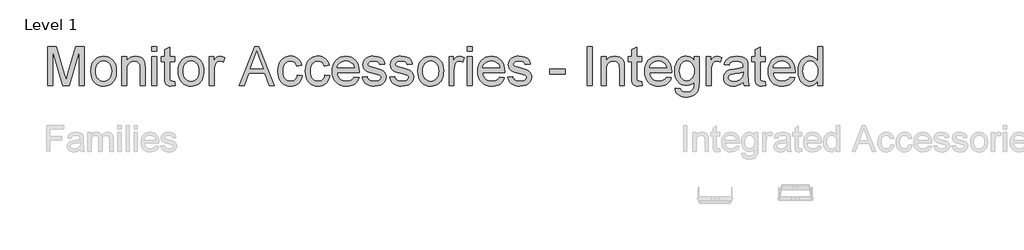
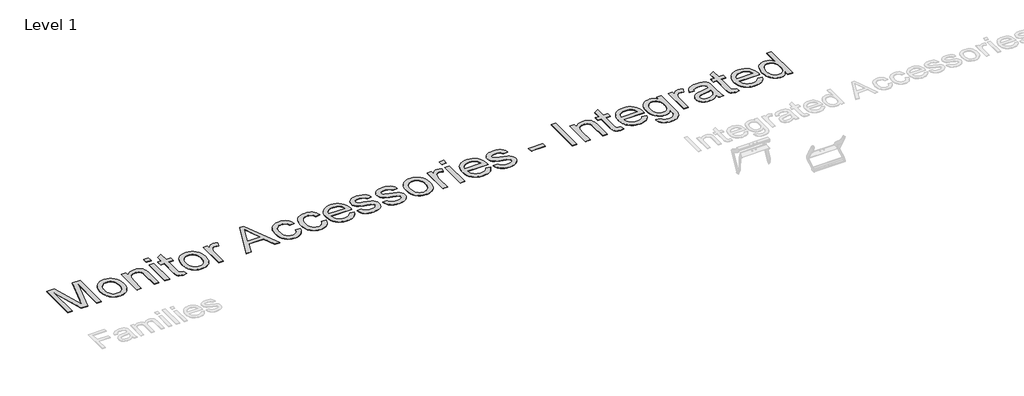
# One storey, part 4 of 7: 1 proxy.
"""IFC4 building model written with IfcOpenShell, lengths in millimetres."""

from ifc_helpers import new_model, si_unit, origin, origin_with_axes, place, context, project, spatial, polyline, outline, extrude, element, save

model = new_model("IFC4")

# Units and contexts
model_context = context("Model", 3, world=origin())
ifc_project = project(units=[si_unit("LENGTHUNIT", "METRE", prefix="MILLI")], contexts=[model_context])

# Site, building, storey
site = spatial("IfcSite", under=ifc_project)
building = spatial("IfcBuilding", under=site)
storey = spatial("IfcBuildingStorey", under=building, Name="Level 1", Elevation=0.0)

# Proxy
placement = place(None, origin())
element("IfcBuildingElementProxy", 1, Name="600mm Arial", ObjectType="600mm Arial", at=placement, inside=storey, context=model_context, shape_type="SweptSolid", body=[
    extrude(outline(polyline([(-21034.9539913, 11851.3054836), (-21034.9539913, 12442.0747143), (-20907.8866836, 12442.0747143), (-20787.021299, 12025.6804836), (-20762.646299, 11938.7093297), (-20736.2520682, 12032.892022), (-20617.4059143, 12442.0747143), (-20490.3386067, 12442.0747143), (-20490.3386067, 11851.3054836), (-20564.1847605, 11851.3054836), (-20564.1847605, 12368.2285605), (-20712.598222, 11851.3054836), (-20812.6943759, 11851.3054836), (-20961.1078374, 12368.2285605), (-20961.1078374, 11851.3054836), (-21034.9539913, 11851.3054836)])), origin_with_axes(), (0.0, 0.0, 1.0), 5.0),
    extrude(outline(polyline([(-20388.8001451, 12068.2285605), (-20384.8067557, 12124.4154595), (-20372.8265874, 12172.8319259), (-20352.8596403, 12213.4779595), (-20324.9059143, 12246.3535605), (-20296.7628855, 12267.3661807), (-20265.6991836, 12282.3751951), (-20231.7148086, 12291.3806038), (-20194.8097605, 12294.3824066), (-20154.0690754, 12290.7270581), (-20117.2316355, 12279.7610124), (-20084.2974408, 12261.4842696), (-20055.2664913, 12235.8968297), (-20031.5720802, 12203.8640773), (-20014.6475009, 12166.251397), (-20004.4927533, 12123.0587889), (-20001.1078374, 12074.2862528), (-20002.6042317, 12034.7580076), (-20007.0934143, 11999.6828874), (-20014.5753855, 11969.0608922), (-20025.0501451, 11942.892022), (-20038.3869841, 11920.2883562), (-20054.4551932, 11900.361974), (-20073.2547725, 11883.1128754), (-20094.785722, 11868.5410605), (-20118.2097004, 11856.9620341), (-20142.6883663, 11848.6913009), (-20168.2217196, 11843.728861), (-20194.8097605, 11842.0747143), (-20236.1453975, 11845.7165413), (-20273.3253855, 11856.642022), (-20306.3497244, 11874.8511566), (-20335.2184143, 11900.3439451), (-20358.6604216, 11932.6876951), (-20375.4047124, 11971.4497143), (-20385.4512869, 12016.6300028), (-20388.8001451, 12068.2285605)]), holes=[polyline([(-20314.9539913, 12068.3727913), (-20312.817573, 12032.5539812), (-20306.4083182, 12001.5398586), (-20295.7262268, 11975.3304235), (-20280.771299, 11953.9256759), (-20262.5801932, 11937.2985725), (-20242.1895682, 11925.4220701), (-20219.599424, 11918.2961687), (-20194.8097605, 11915.9208682), (-20170.146299, 11918.3096903), (-20147.646299, 11925.4761566), (-20127.3097605, 11937.4202672), (-20109.1366836, 11954.142022), (-20094.1817557, 11975.7586086), (-20083.4996643, 12002.3872143), (-20077.0904095, 12034.0278393), (-20074.9539913, 12070.6804836), (-20077.1039312, 12105.3634764), (-20083.5537509, 12135.5663009), (-20094.3034504, 12161.2889571), (-20109.3530297, 12182.5314451), (-20127.5937148, 12199.1585485), (-20147.9167317, 12211.0350509), (-20170.3220802, 12218.1609523), (-20194.8097605, 12220.5362528), (-20219.599424, 12218.1699667), (-20242.1895682, 12211.0711086), (-20262.5801932, 12199.2396783), (-20280.771299, 12182.6756759), (-20295.7262268, 12161.3340292), (-20306.4083182, 12135.1696663), (-20312.817573, 12104.1825869), (-20314.9539913, 12068.3727913)])]), origin_with_axes(), (0.0, 0.0, 1.0), 5.0),
    extrude(outline(polyline([(-19918.0309143, 11851.3054836), (-19918.0309143, 12285.1516374), (-19844.1847605, 12285.1516374), (-19844.1847605, 12224.5747143), (-19818.5297124, 12255.1155797), (-19787.7184143, 12276.9304836), (-19751.7508663, 12290.0194259), (-19710.6270682, 12294.3824066), (-19674.2268278, 12290.8667816), (-19640.8914913, 12280.3199066), (-19613.0910105, 12264.0578874), (-19593.2953374, 12243.3968297), (-19579.863847, 12218.3908201), (-19571.1559143, 12189.0939451), (-19567.2616836, 12117.6997143), (-19567.2616836, 11851.3054836), (-19641.1078374, 11851.3054836), (-19641.1078374, 12107.7477913), (-19643.2352413, 12145.9328874), (-19649.6174528, 12173.0843297), (-19661.3902893, 12192.5374547), (-19679.6895682, 12207.627599), (-19703.145097, 12217.3090893), (-19730.3866836, 12220.5362528), (-19752.810061, 12218.7243538), (-19773.6378855, 12213.2886566), (-19792.8701571, 12204.2291615), (-19810.5068759, 12191.5458682), (-19825.2409504, 12173.7964691), (-19835.7652893, 12149.5386566), (-19842.0798927, 12118.7724307), (-19844.1847605, 12081.4977913), (-19844.1847605, 11851.3054836), (-19918.0309143, 11851.3054836)])), origin_with_axes(), (0.0, 0.0, 1.0), 5.0),
    extrude(outline(polyline([(-19465.723222, 12368.2285605), (-19465.723222, 12442.0747143), (-19391.8770682, 12442.0747143), (-19391.8770682, 12368.2285605), (-19465.723222, 12368.2285605)])), origin_with_axes(), (0.0, 0.0, 1.0), 5.0),
    extrude(outline(polyline([(-19465.723222, 11851.3054836), (-19465.723222, 12285.1516374), (-19391.8770682, 12285.1516374), (-19391.8770682, 11851.3054836), (-19465.723222, 11851.3054836)])), origin_with_axes(), (0.0, 0.0, 1.0), 5.0),
    extrude(outline(polyline([(-19124.1847605, 11912.892022), (-19114.9539913, 11849.142022), (-19170.1943759, 11842.0747143), (-19205.6390874, 11845.1396182), (-19232.0693759, 11854.3343297), (-19250.7472605, 11868.5050028), (-19262.9347605, 11886.4977913), (-19269.6414913, 11917.3992336), (-19271.8770682, 11970.2958682), (-19271.8770682, 12211.3054836), (-19327.2616836, 12211.3054836), (-19327.2616836, 12285.1516374), (-19271.8770682, 12285.1516374), (-19271.8770682, 12390.5843297), (-19198.0309143, 12433.9977913), (-19198.0309143, 12285.1516374), (-19124.1847605, 12285.1516374), (-19124.1847605, 12211.3054836), (-19198.0309143, 12211.3054836), (-19198.0309143, 11972.4593297), (-19194.1366836, 11934.3824066), (-19181.5164913, 11920.8968297), (-19170.8614432, 11917.1648586), (-19156.348222, 11915.9208682), (-19124.1847605, 11912.892022)])), origin_with_axes(), (0.0, 0.0, 1.0), 5.0),
    extrude(outline(polyline([(-19068.8001451, 12068.2285605), (-19064.8067557, 12124.4154595), (-19052.8265874, 12172.8319259), (-19032.8596403, 12213.4779595), (-19004.9059143, 12246.3535605), (-18976.7628855, 12267.3661807), (-18945.6991836, 12282.3751951), (-18911.7148086, 12291.3806038), (-18874.8097605, 12294.3824066), (-18834.0690754, 12290.7270581), (-18797.2316355, 12279.7610124), (-18764.2974408, 12261.4842696), (-18735.2664913, 12235.8968297), (-18711.5720802, 12203.8640773), (-18694.6475009, 12166.251397), (-18684.4927533, 12123.0587889), (-18681.1078374, 12074.2862528), (-18682.6042317, 12034.7580076), (-18687.0934143, 11999.6828874), (-18694.5753855, 11969.0608922), (-18705.0501451, 11942.892022), (-18718.3869841, 11920.2883562), (-18734.4551932, 11900.361974), (-18753.2547725, 11883.1128754), (-18774.785722, 11868.5410605), (-18798.2097004, 11856.9620341), (-18822.6883663, 11848.6913009), (-18848.2217196, 11843.728861), (-18874.8097605, 11842.0747143), (-18916.1453975, 11845.7165413), (-18953.3253855, 11856.642022), (-18986.3497244, 11874.8511566), (-19015.2184143, 11900.3439451), (-19038.6604216, 11932.6876951), (-19055.4047124, 11971.4497143), (-19065.4512869, 12016.6300028), (-19068.8001451, 12068.2285605)]), holes=[polyline([(-18994.9539913, 12068.3727913), (-18992.817573, 12032.5539812), (-18986.4083182, 12001.5398586), (-18975.7262268, 11975.3304235), (-18960.771299, 11953.9256759), (-18942.5801932, 11937.2985725), (-18922.1895682, 11925.4220701), (-18899.599424, 11918.2961687), (-18874.8097605, 11915.9208682), (-18850.146299, 11918.3096903), (-18827.646299, 11925.4761566), (-18807.3097605, 11937.4202672), (-18789.1366836, 11954.142022), (-18774.1817557, 11975.7586086), (-18763.4996643, 12002.3872143), (-18757.0904095, 12034.0278393), (-18754.9539913, 12070.6804836), (-18757.1039312, 12105.3634764), (-18763.5537509, 12135.5663009), (-18774.3034504, 12161.2889571), (-18789.3530297, 12182.5314451), (-18807.5937148, 12199.1585485), (-18827.9167317, 12211.0350509), (-18850.3220802, 12218.1609523), (-18874.8097605, 12220.5362528), (-18899.599424, 12218.1699667), (-18922.1895682, 12211.0711086), (-18942.5801932, 12199.2396783), (-18960.771299, 12182.6756759), (-18975.7262268, 12161.3340292), (-18986.4083182, 12135.1696663), (-18992.817573, 12104.1825869), (-18994.9539913, 12068.3727913)])]), origin_with_axes(), (0.0, 0.0, 1.0), 5.0),
    extrude(outline(polyline([(-18598.0309143, 11851.3054836), (-18598.0309143, 12285.1516374), (-18533.4155297, 12285.1516374), (-18533.4155297, 12220.9689451), (-18509.5453374, 12258.1804836), (-18487.5501451, 12280.1035605), (-18465.4828374, 12290.8126951), (-18441.396299, 12294.3824066), (-18404.6174528, 12288.6852913), (-18367.2616836, 12271.5939451), (-18391.9251451, 12205.392022), (-18417.8866836, 12216.7501951), (-18443.848222, 12220.5362528), (-18465.8975009, 12216.8944259), (-18485.6030297, 12205.9689451), (-18501.5225009, 12188.5891374), (-18512.2136067, 12165.5843297), (-18521.191972, 12124.3343297), (-18524.1847605, 12079.3343297), (-18524.1847605, 11851.3054836), (-18598.0309143, 11851.3054836)])), origin_with_axes(), (0.0, 0.0, 1.0), 5.0),
    extrude(outline(polyline([(-18149.9059143, 11851.3054836), (-17914.0886067, 12442.0747143), (-17851.2039913, 12442.0747143), (-17615.3866836, 11851.3054836), (-17693.4155297, 11851.3054836), (-17761.0597605, 12035.9208682), (-18004.3770682, 12035.9208682), (-18071.8770682, 11851.3054836), (-18149.9059143, 11851.3054836)]), holes=[polyline([(-17977.2616836, 12109.767022), (-17788.0309143, 12109.767022), (-17841.2520682, 12255.0074066), (-17882.646299, 12368.2285605), (-17919.4251451, 12267.6997143), (-17977.2616836, 12109.767022)])]), origin_with_axes(), (0.0, 0.0, 1.0), 5.0),
    extrude(outline(polyline([(-17268.8001451, 12008.2285605), (-17194.9539913, 11998.9977913), (-17202.9858422, 11964.1525389), (-17215.5429336, 11933.3187047), (-17232.6252653, 11906.4962889), (-17254.2328374, 11883.6852913), (-17279.4551932, 11865.4806639), (-17307.3818759, 11852.4773586), (-17338.0128855, 11844.6753754), (-17371.348222, 11842.0747143), (-17412.7649889, 11845.7030196), (-17449.8999047, 11856.5879355), (-17482.7529696, 11874.7294619), (-17511.3241836, 11900.127599), (-17534.450686, 11932.3045821), (-17550.9696163, 11970.782647), (-17560.8809744, 12015.5617937), (-17564.1847605, 12066.642022), (-17558.5417317, 12132.3571663), (-17551.4879456, 12161.9289812), (-17541.6126451, 12189.3102913), (-17528.848222, 12213.9512167), (-17513.1270682, 12235.3018778), (-17494.4491836, 12253.3622744), (-17472.8145682, 12268.1324066), (-17449.2012869, 12279.6167816), (-17424.5874047, 12287.8199066), (-17398.9729216, 12292.7417816), (-17372.3578374, 12294.3824066), (-17339.5949167, 12292.1288009), (-17309.9600009, 12285.3679836), (-17283.4530898, 12274.0999547), (-17260.0741836, 12258.3247143), (-17240.2199167, 12238.4028393), (-17224.286924, 12214.6949066), (-17212.2752052, 12187.2009163), (-17204.1847605, 12155.9208682), (-17278.0309143, 12146.690099), (-17291.426347, 12178.907647), (-17312.285722, 12202.002599), (-17339.4551932, 12215.9028393), (-17371.7809143, 12220.5362528), (-17396.872561, 12218.2556038), (-17419.5032701, 12211.4136566), (-17439.6730417, 12200.0104115), (-17457.3818759, 12184.0458682), (-17471.8004456, 12163.1504355), (-17482.099424, 12136.954522), (-17488.278811, 12105.4581278), (-17490.3386067, 12068.6612528), (-17488.3238831, 12031.3099908), (-17482.2797124, 11999.4485124), (-17472.2060946, 11973.0768177), (-17458.1030297, 11952.1949066), (-17440.7457581, 11936.3250148), (-17420.9095201, 11924.9893778), (-17398.5943158, 11918.1879956), (-17373.8001451, 11915.9208682), (-17335.5609624, 11921.5819259), (-17319.0240033, 11928.658248), (-17304.208799, 11938.565099), (-17291.5300129, 11951.4106518), (-17281.4023086, 11967.3030797), (-17273.825686, 11986.2423826), (-17268.8001451, 12008.2285605)])), origin_with_axes(), (0.0, 0.0, 1.0), 5.0),
    extrude(outline(polyline([(-16853.4155297, 12008.2285605), (-16779.5693759, 11998.9977913), (-16787.6012268, 11964.1525389), (-16800.1583182, 11933.3187047), (-16817.2406499, 11906.4962889), (-16838.848222, 11883.6852913), (-16864.0705778, 11865.4806639), (-16891.9972605, 11852.4773586), (-16922.6282701, 11844.6753754), (-16955.9636067, 11842.0747143), (-16997.3803735, 11845.7030196), (-17034.5152893, 11856.5879355), (-17067.3683542, 11874.7294619), (-17095.9395682, 11900.127599), (-17119.0660706, 11932.3045821), (-17135.5850009, 11970.782647), (-17145.4963591, 12015.5617937), (-17148.8001451, 12066.642022), (-17143.1571163, 12132.3571663), (-17136.1033302, 12161.9289812), (-17126.2280297, 12189.3102913), (-17113.4636067, 12213.9512167), (-17097.7424528, 12235.3018778), (-17079.0645682, 12253.3622744), (-17057.4299528, 12268.1324066), (-17033.8166716, 12279.6167816), (-17009.2027893, 12287.8199066), (-16983.5883062, 12292.7417816), (-16956.973222, 12294.3824066), (-16924.2103014, 12292.1288009), (-16894.5753855, 12285.3679836), (-16868.0684744, 12274.0999547), (-16844.6895682, 12258.3247143), (-16824.8353014, 12238.4028393), (-16808.9023086, 12214.6949066), (-16796.8905898, 12187.2009163), (-16788.8001451, 12155.9208682), (-16862.646299, 12146.690099), (-16876.0417317, 12178.907647), (-16896.9011067, 12202.002599), (-16924.0705778, 12215.9028393), (-16956.396299, 12220.5362528), (-16981.4879456, 12218.2556038), (-17004.1186547, 12211.4136566), (-17024.2884264, 12200.0104115), (-17041.9972605, 12184.0458682), (-17056.4158302, 12163.1504355), (-17066.7148086, 12136.954522), (-17072.8941956, 12105.4581278), (-17074.9539913, 12068.6612528), (-17072.9392677, 12031.3099908), (-17066.895097, 11999.4485124), (-17056.8214792, 11973.0768177), (-17042.7184143, 11952.1949066), (-17025.3611427, 11936.3250148), (-17005.5249047, 11924.9893778), (-16983.2097004, 11918.1879956), (-16958.4155297, 11915.9208682), (-16920.176347, 11921.5819259), (-16903.6393879, 11928.658248), (-16888.8241836, 11938.565099), (-16876.1453975, 11951.4106518), (-16866.0176932, 11967.3030797), (-16858.4410706, 11986.2423826), (-16853.4155297, 12008.2285605)])), origin_with_axes(), (0.0, 0.0, 1.0), 5.0),
    extrude(outline(polyline([(-16411.2039913, 11980.5362528), (-16338.8001451, 11971.3054836), (-16349.9014071, 11942.3060845), (-16364.8878855, 11916.7501951), (-16383.7595802, 11894.6378153), (-16406.5164913, 11875.9689451), (-16432.9242437, 11861.1402191), (-16462.7484624, 11850.548272), (-16495.9891475, 11844.1931038), (-16532.646299, 11842.0747143), (-16578.4666115, 11845.7300629), (-16619.2929336, 11856.6961086), (-16655.1252653, 11874.9728514), (-16685.9636067, 11900.5602913), (-16710.7622845, 11932.7462889), (-16728.4756259, 11970.8187047), (-16739.1036307, 12014.7775389), (-16742.646299, 12064.6227913), (-16739.067573, 12116.158248), (-16728.3313951, 12161.5819259), (-16710.4377653, 12200.8938249), (-16685.3866836, 12234.0939451), (-16654.629472, 12260.470147), (-16619.6174528, 12279.3102913), (-16580.3506259, 12290.6143778), (-16536.8289913, 12294.3824066), (-16494.7090994, 12290.6233922), (-16456.6186547, 12279.346349), (-16422.5576571, 12260.5512768), (-16392.5261067, 12234.2381759), (-16368.0113831, 12201.1101711), (-16350.5008663, 12161.8703874), (-16339.9945562, 12116.5188249), (-16336.4924528, 12065.0554836), (-16336.9251451, 12045.1516374), (-16668.8001451, 12045.1516374), (-16664.5228014, 12015.6834884), (-16656.0176932, 11989.8751951), (-16643.2848206, 11967.7267576), (-16626.3241836, 11949.2381759), (-16606.0732821, 11934.6618538), (-16583.4696163, 11924.2501951), (-16558.513186, 11918.0031999), (-16531.2039913, 11915.9208682), (-16491.9011067, 11919.7790413), (-16458.8001451, 11931.3535605), (-16431.9011067, 11951.3655797), (-16411.2039913, 11980.5362528)]), holes=[polyline([(-16668.8001451, 12118.9977913), (-16410.3386067, 12118.9977913), (-16420.3265874, 12158.0122143), (-16428.9173326, 12173.3547624), (-16439.9059143, 12185.9208682), (-16460.0441355, 12201.065099), (-16482.958799, 12211.8824066), (-16508.6499047, 12218.3727913), (-16537.1174528, 12220.5362528), (-16563.0834985, 12218.8099908), (-16586.895097, 12213.6312047), (-16608.5522485, 12204.9998946), (-16628.0549528, 12192.9160605), (-16644.4206379, 12177.9385966), (-16656.6667317, 12160.626397), (-16664.7932341, 12140.9794619), (-16668.8001451, 12118.9977913)])]), origin_with_axes(), (0.0, 0.0, 1.0), 5.0),
    extrude(outline(polyline([(-16290.3386067, 11980.5362528), (-16216.4924528, 11989.767022), (-16212.0303134, 11972.9280797), (-16204.8458182, 11958.1804836), (-16194.9389672, 11945.5242336), (-16182.3097605, 11934.9593297), (-16166.9221403, 11926.6300028), (-16148.740049, 11920.6804836), (-16103.9924528, 11915.9208682), (-16059.785722, 11920.283849), (-16042.6042317, 11925.7375749), (-16028.7039913, 11933.3727913), (-16010.3145682, 11952.3391374), (-16004.1847605, 11974.3343297), (-16005.7262268, 11984.3042816), (-16010.3506259, 11993.1564451), (-16028.848222, 12007.5074066), (-16056.504472, 12016.8824066), (-16104.8578374, 12028.565099), (-16172.2496643, 12048.0542816), (-16216.0597605, 12064.6949066), (-16244.2027893, 12082.8499547), (-16264.5934143, 12106.8824066), (-16276.9792317, 12135.2598105), (-16281.1078374, 12166.4497143), (-16277.7905297, 12195.0614932), (-16267.8386067, 12221.4737528), (-16252.1535105, 12244.6408201), (-16231.6366836, 12263.517022), (-16211.2460586, 12275.3980316), (-16184.6895682, 12285.3679836), (-16153.9864432, 12292.1288009), (-16121.1559143, 12294.3824066), (-16073.0910105, 12290.7586086), (-16031.3001451, 12279.8872143), (-15997.6943759, 12262.8319259), (-15974.1847605, 12240.6564451), (-15958.6078374, 12211.720147), (-15948.8001451, 12174.3824066), (-16022.646299, 12165.1516374), (-16031.9672124, 12188.3908201), (-16050.410722, 12205.8968297), (-16078.1571163, 12216.876397), (-16115.3866836, 12220.5362528), (-16157.7905297, 12217.0386566), (-16186.0597605, 12206.5458682), (-16201.9612028, 12191.4016374), (-16207.2616836, 12173.9497143), (-16205.0621643, 12162.5915413), (-16198.4636067, 12152.4593297), (-16187.177549, 12143.408849), (-16170.9155297, 12136.1612528), (-16107.3097605, 12120.440099), (-15998.9203374, 12085.6804836), (-15970.2905297, 12069.0578874), (-15948.583799, 12046.3054836), (-15934.8999047, 12017.3511566), (-15930.3386067, 11982.1227913), (-15935.693174, 11945.704522), (-15951.7568759, 11911.4497143), (-15977.9167317, 11882.0446663), (-16013.5597605, 11860.1756759), (-16056.6126451, 11846.5999547), (-16105.0020682, 11842.0747143), (-16144.7466595, 11844.2562047), (-16179.4612028, 11850.8006759), (-16209.145698, 11861.7081278), (-16233.8001451, 11876.9785605), (-16253.9383663, 11896.5398586), (-16270.0741836, 11920.3199066), (-16282.207597, 11948.3187047), (-16290.3386067, 11980.5362528)])), origin_with_axes(), (0.0, 0.0, 1.0), 5.0),
    extrude(outline(polyline([(-15874.9539913, 11980.5362528), (-15801.1078374, 11989.767022), (-15796.645698, 11972.9280797), (-15789.4612028, 11958.1804836), (-15779.5543518, 11945.5242336), (-15766.9251451, 11934.9593297), (-15751.5375249, 11926.6300028), (-15733.3554336, 11920.6804836), (-15688.6078374, 11915.9208682), (-15644.4011067, 11920.283849), (-15627.2196163, 11925.7375749), (-15613.3193759, 11933.3727913), (-15594.9299528, 11952.3391374), (-15588.8001451, 11974.3343297), (-15590.3416115, 11984.3042816), (-15594.9660105, 11993.1564451), (-15613.4636067, 12007.5074066), (-15641.1198567, 12016.8824066), (-15689.473222, 12028.565099), (-15756.865049, 12048.0542816), (-15800.6751451, 12064.6949066), (-15828.818174, 12082.8499547), (-15849.208799, 12106.8824066), (-15861.5946163, 12135.2598105), (-15865.723222, 12166.4497143), (-15862.4059143, 12195.0614932), (-15852.4539913, 12221.4737528), (-15836.7688951, 12244.6408201), (-15816.2520682, 12263.517022), (-15795.8614432, 12275.3980316), (-15769.3049528, 12285.3679836), (-15738.6018278, 12292.1288009), (-15705.771299, 12294.3824066), (-15657.7063951, 12290.7586086), (-15615.9155297, 12279.8872143), (-15582.3097605, 12262.8319259), (-15558.8001451, 12240.6564451), (-15543.223222, 12211.720147), (-15533.4155297, 12174.3824066), (-15607.2616836, 12165.1516374), (-15616.582597, 12188.3908201), (-15635.0261067, 12205.8968297), (-15662.7725009, 12216.876397), (-15700.0020682, 12220.5362528), (-15742.4059143, 12217.0386566), (-15770.6751451, 12206.5458682), (-15786.5765874, 12191.4016374), (-15791.8770682, 12173.9497143), (-15789.677549, 12162.5915413), (-15783.0789913, 12152.4593297), (-15771.7929336, 12143.408849), (-15755.5309143, 12136.1612528), (-15691.9251451, 12120.440099), (-15583.535722, 12085.6804836), (-15554.9059143, 12069.0578874), (-15533.1991836, 12046.3054836), (-15519.5152893, 12017.3511566), (-15514.9539913, 11982.1227913), (-15520.3085586, 11945.704522), (-15536.3722605, 11911.4497143), (-15562.5321163, 11882.0446663), (-15598.1751451, 11860.1756759), (-15641.2280297, 11846.5999547), (-15689.6174528, 11842.0747143), (-15729.3620442, 11844.2562047), (-15764.0765874, 11850.8006759), (-15793.7610826, 11861.7081278), (-15818.4155297, 11876.9785605), (-15838.5537509, 11896.5398586), (-15854.6895682, 11920.3199066), (-15866.8229817, 11948.3187047), (-15874.9539913, 11980.5362528)])), origin_with_axes(), (0.0, 0.0, 1.0), 5.0),
    extrude(outline(polyline([(-15450.3386067, 12068.2285605), (-15446.3452172, 12124.4154595), (-15434.365049, 12172.8319259), (-15414.3981018, 12213.4779595), (-15386.4443759, 12246.3535605), (-15358.301347, 12267.3661807), (-15327.2376451, 12282.3751951), (-15293.2532701, 12291.3806038), (-15256.348222, 12294.3824066), (-15215.6075369, 12290.7270581), (-15178.770097, 12279.7610124), (-15145.8359023, 12261.4842696), (-15116.8049528, 12235.8968297), (-15093.1105417, 12203.8640773), (-15076.1859624, 12166.251397), (-15066.0312148, 12123.0587889), (-15062.646299, 12074.2862528), (-15064.1426932, 12034.7580076), (-15068.6318759, 11999.6828874), (-15076.113847, 11969.0608922), (-15086.5886067, 11942.892022), (-15099.9254456, 11920.2883562), (-15115.9936547, 11900.361974), (-15134.7932341, 11883.1128754), (-15156.3241836, 11868.5410605), (-15179.7481619, 11856.9620341), (-15204.2268278, 11848.6913009), (-15229.7601812, 11843.728861), (-15256.348222, 11842.0747143), (-15297.6838591, 11845.7165413), (-15334.863847, 11856.642022), (-15367.888186, 11874.8511566), (-15396.7568759, 11900.3439451), (-15420.1988831, 11932.6876951), (-15436.943174, 11971.4497143), (-15446.9897485, 12016.6300028), (-15450.3386067, 12068.2285605)]), holes=[polyline([(-15376.4924528, 12068.3727913), (-15374.3560345, 12032.5539812), (-15367.9467797, 12001.5398586), (-15357.2646884, 11975.3304235), (-15342.3097605, 11953.9256759), (-15324.1186547, 11937.2985725), (-15303.7280297, 11925.4220701), (-15281.1378855, 11918.2961687), (-15256.348222, 11915.9208682), (-15231.6847605, 11918.3096903), (-15209.1847605, 11925.4761566), (-15188.848222, 11937.4202672), (-15170.6751451, 11954.142022), (-15155.7202172, 11975.7586086), (-15145.0381259, 12002.3872143), (-15138.6288711, 12034.0278393), (-15136.4924528, 12070.6804836), (-15138.6423927, 12105.3634764), (-15145.0922124, 12135.5663009), (-15155.8419119, 12161.2889571), (-15170.8914913, 12182.5314451), (-15189.1321764, 12199.1585485), (-15209.4551932, 12211.0350509), (-15231.8605417, 12218.1609523), (-15256.348222, 12220.5362528), (-15281.1378855, 12218.1699667), (-15303.7280297, 12211.0711086), (-15324.1186547, 12199.2396783), (-15342.3097605, 12182.6756759), (-15357.2646884, 12161.3340292), (-15367.9467797, 12135.1696663), (-15374.3560345, 12104.1825869), (-15376.4924528, 12068.3727913)])]), origin_with_axes(), (0.0, 0.0, 1.0), 5.0),
    extrude(outline(polyline([(-14979.5693759, 11851.3054836), (-14979.5693759, 12285.1516374), (-14914.9539913, 12285.1516374), (-14914.9539913, 12220.9689451), (-14891.083799, 12258.1804836), (-14869.0886067, 12280.1035605), (-14847.021299, 12290.8126951), (-14822.9347605, 12294.3824066), (-14786.1559143, 12288.6852913), (-14748.8001451, 12271.5939451), (-14773.4636067, 12205.392022), (-14799.4251451, 12216.7501951), (-14825.3866836, 12220.5362528), (-14847.4359624, 12216.8944259), (-14867.1414913, 12205.9689451), (-14883.0609624, 12188.5891374), (-14893.7520682, 12165.5843297), (-14902.7304336, 12124.3343297), (-14905.723222, 12079.3343297), (-14905.723222, 11851.3054836), (-14979.5693759, 11851.3054836)])), origin_with_axes(), (0.0, 0.0, 1.0), 5.0),
    extrude(outline(polyline([(-14702.646299, 11851.3054836), (-14702.646299, 12285.1516374), (-14628.8001451, 12285.1516374), (-14628.8001451, 11851.3054836), (-14702.646299, 11851.3054836)])), origin_with_axes(), (0.0, 0.0, 1.0), 5.0),
    extrude(outline(polyline([(-14702.646299, 12368.2285605), (-14702.646299, 12442.0747143), (-14628.8001451, 12442.0747143), (-14628.8001451, 12368.2285605), (-14702.646299, 12368.2285605)])), origin_with_axes(), (0.0, 0.0, 1.0), 5.0),
    extrude(outline(polyline([(-14214.2809143, 11980.5362528), (-14141.8770682, 11971.3054836), (-14152.9783302, 11942.3060845), (-14167.9648086, 11916.7501951), (-14186.8365033, 11894.6378153), (-14209.5934143, 11875.9689451), (-14236.0011667, 11861.1402191), (-14265.8253855, 11850.548272), (-14299.0660706, 11844.1931038), (-14335.723222, 11842.0747143), (-14381.5435345, 11845.7300629), (-14422.3698567, 11856.6961086), (-14458.2021884, 11874.9728514), (-14489.0405297, 11900.5602913), (-14513.8392076, 11932.7462889), (-14531.552549, 11970.8187047), (-14542.1805538, 12014.7775389), (-14545.723222, 12064.6227913), (-14542.1444961, 12116.158248), (-14531.4083182, 12161.5819259), (-14513.5146884, 12200.8938249), (-14488.4636067, 12234.0939451), (-14457.7063951, 12260.470147), (-14422.6943759, 12279.3102913), (-14383.427549, 12290.6143778), (-14339.9059143, 12294.3824066), (-14297.7860225, 12290.6233922), (-14259.6955778, 12279.346349), (-14225.6345802, 12260.5512768), (-14195.6030297, 12234.2381759), (-14171.0883062, 12201.1101711), (-14153.5777893, 12161.8703874), (-14143.0714792, 12116.5188249), (-14139.5693759, 12065.0554836), (-14140.0020682, 12045.1516374), (-14471.8770682, 12045.1516374), (-14467.5997244, 12015.6834884), (-14459.0946163, 11989.8751951), (-14446.3617437, 11967.7267576), (-14429.4011067, 11949.2381759), (-14409.1502052, 11934.6618538), (-14386.5465393, 11924.2501951), (-14361.5901091, 11918.0031999), (-14334.2809143, 11915.9208682), (-14294.9780297, 11919.7790413), (-14261.8770682, 11931.3535605), (-14234.9780297, 11951.3655797), (-14214.2809143, 11980.5362528)]), holes=[polyline([(-14471.8770682, 12118.9977913), (-14213.4155297, 12118.9977913), (-14223.4035105, 12158.0122143), (-14231.9942557, 12173.3547624), (-14242.9828374, 12185.9208682), (-14263.1210586, 12201.065099), (-14286.035722, 12211.8824066), (-14311.7268278, 12218.3727913), (-14340.1943759, 12220.5362528), (-14366.1604216, 12218.8099908), (-14389.9720201, 12213.6312047), (-14411.6291716, 12204.9998946), (-14431.1318759, 12192.9160605), (-14447.497561, 12177.9385966), (-14459.7436547, 12160.626397), (-14467.8701571, 12140.9794619), (-14471.8770682, 12118.9977913)])]), origin_with_axes(), (0.0, 0.0, 1.0), 5.0),
    extrude(outline(polyline([(-14093.4155297, 11980.5362528), (-14019.5693759, 11989.767022), (-14015.1072365, 11972.9280797), (-14007.9227413, 11958.1804836), (-13998.0158903, 11945.5242336), (-13985.3866836, 11934.9593297), (-13969.9990634, 11926.6300028), (-13951.816972, 11920.6804836), (-13907.0693759, 11915.9208682), (-13862.8626451, 11920.283849), (-13845.6811547, 11925.7375749), (-13831.7809143, 11933.3727913), (-13813.3914913, 11952.3391374), (-13807.2616836, 11974.3343297), (-13808.8031499, 11984.3042816), (-13813.427549, 11993.1564451), (-13831.9251451, 12007.5074066), (-13859.5813951, 12016.8824066), (-13907.9347605, 12028.565099), (-13975.3265874, 12048.0542816), (-14019.1366836, 12064.6949066), (-14047.2797124, 12082.8499547), (-14067.6703374, 12106.8824066), (-14080.0561547, 12135.2598105), (-14084.1847605, 12166.4497143), (-14080.8674528, 12195.0614932), (-14070.9155297, 12221.4737528), (-14055.2304336, 12244.6408201), (-14034.7136067, 12263.517022), (-14014.3229817, 12275.3980316), (-13987.7664913, 12285.3679836), (-13957.0633663, 12292.1288009), (-13924.2328374, 12294.3824066), (-13876.1679336, 12290.7586086), (-13834.3770682, 12279.8872143), (-13800.771299, 12262.8319259), (-13777.2616836, 12240.6564451), (-13761.6847605, 12211.720147), (-13751.8770682, 12174.3824066), (-13825.723222, 12165.1516374), (-13835.0441355, 12188.3908201), (-13853.4876451, 12205.8968297), (-13881.2340393, 12216.876397), (-13918.4636067, 12220.5362528), (-13960.8674528, 12217.0386566), (-13989.1366836, 12206.5458682), (-14005.0381259, 12191.4016374), (-14010.3386067, 12173.9497143), (-14008.1390874, 12162.5915413), (-14001.5405297, 12152.4593297), (-13990.254472, 12143.408849), (-13973.9924528, 12136.1612528), (-13910.3866836, 12120.440099), (-13801.9972605, 12085.6804836), (-13773.3674528, 12069.0578874), (-13751.660722, 12046.3054836), (-13737.9768278, 12017.3511566), (-13733.4155297, 11982.1227913), (-13738.770097, 11945.704522), (-13754.833799, 11911.4497143), (-13780.9936547, 11882.0446663), (-13816.6366836, 11860.1756759), (-13859.6895682, 11846.5999547), (-13908.0789913, 11842.0747143), (-13947.8235826, 11844.2562047), (-13982.5381259, 11850.8006759), (-14012.2226211, 11861.7081278), (-14036.8770682, 11876.9785605), (-14057.0152893, 11896.5398586), (-14073.1511067, 11920.3199066), (-14085.2845201, 11948.3187047), (-14093.4155297, 11980.5362528)])), origin_with_axes(), (0.0, 0.0, 1.0), 5.0),
    extrude(outline(polyline([(-13456.4924528, 12026.690099), (-13456.4924528, 12100.5362528), (-13225.723222, 12100.5362528), (-13225.723222, 12026.690099), (-13456.4924528, 12026.690099)])), origin_with_axes(), (0.0, 0.0, 1.0), 5.0),
    extrude(outline(polyline([(-12893.4155297, 11851.3054836), (-12893.4155297, 12442.0747143), (-12819.5693759, 12442.0747143), (-12819.5693759, 11851.3054836), (-12893.4155297, 11851.3054836)])), origin_with_axes(), (0.0, 0.0, 1.0), 5.0),
    extrude(outline(polyline([(-12681.1078374, 11851.3054836), (-12681.1078374, 12285.1516374), (-12607.2616836, 12285.1516374), (-12607.2616836, 12224.5747143), (-12581.6066355, 12255.1155797), (-12550.7953374, 12276.9304836), (-12514.8277893, 12290.0194259), (-12473.7039913, 12294.3824066), (-12437.3037509, 12290.8667816), (-12403.9684143, 12280.3199066), (-12376.1679336, 12264.0578874), (-12356.3722605, 12243.3968297), (-12342.9407701, 12218.3908201), (-12334.2328374, 12189.0939451), (-12330.3386067, 12117.6997143), (-12330.3386067, 11851.3054836), (-12404.1847605, 11851.3054836), (-12404.1847605, 12107.7477913), (-12406.3121643, 12145.9328874), (-12412.6943759, 12173.0843297), (-12424.4672124, 12192.5374547), (-12442.7664913, 12207.627599), (-12466.2220201, 12217.3090893), (-12493.4636067, 12220.5362528), (-12515.8869841, 12218.7243538), (-12536.7148086, 12213.2886566), (-12555.9470802, 12204.2291615), (-12573.583799, 12191.5458682), (-12588.3178735, 12173.7964691), (-12598.8422124, 12149.5386566), (-12605.1568158, 12118.7724307), (-12607.2616836, 12081.4977913), (-12607.2616836, 11851.3054836), (-12681.1078374, 11851.3054836)])), origin_with_axes(), (0.0, 0.0, 1.0), 5.0),
    extrude(outline(polyline([(-12071.8770682, 11912.892022), (-12062.646299, 11849.142022), (-12117.8866836, 11842.0747143), (-12153.3313951, 11845.1396182), (-12179.7616836, 11854.3343297), (-12198.4395682, 11868.5050028), (-12210.6270682, 11886.4977913), (-12217.333799, 11917.3992336), (-12219.5693759, 11970.2958682), (-12219.5693759, 12211.3054836), (-12274.9539913, 12211.3054836), (-12274.9539913, 12285.1516374), (-12219.5693759, 12285.1516374), (-12219.5693759, 12390.5843297), (-12145.723222, 12433.9977913), (-12145.723222, 12285.1516374), (-12071.8770682, 12285.1516374), (-12071.8770682, 12211.3054836), (-12145.723222, 12211.3054836), (-12145.723222, 11972.4593297), (-12141.8289913, 11934.3824066), (-12129.208799, 11920.8968297), (-12118.5537509, 11917.1648586), (-12104.0405297, 11915.9208682), (-12071.8770682, 11912.892022)])), origin_with_axes(), (0.0, 0.0, 1.0), 5.0),
    extrude(outline(polyline([(-11694.2809143, 11980.5362528), (-11621.8770682, 11971.3054836), (-11632.9783302, 11942.3060845), (-11647.9648086, 11916.7501951), (-11666.8365033, 11894.6378153), (-11689.5934143, 11875.9689451), (-11716.0011667, 11861.1402191), (-11745.8253855, 11850.548272), (-11779.0660706, 11844.1931038), (-11815.723222, 11842.0747143), (-11861.5435345, 11845.7300629), (-11902.3698567, 11856.6961086), (-11938.2021884, 11874.9728514), (-11969.0405297, 11900.5602913), (-11993.8392076, 11932.7462889), (-12011.552549, 11970.8187047), (-12022.1805538, 12014.7775389), (-12025.723222, 12064.6227913), (-12022.1444961, 12116.158248), (-12011.4083182, 12161.5819259), (-11993.5146884, 12200.8938249), (-11968.4636067, 12234.0939451), (-11937.7063951, 12260.470147), (-11902.6943759, 12279.3102913), (-11863.427549, 12290.6143778), (-11819.9059143, 12294.3824066), (-11777.7860225, 12290.6233922), (-11739.6955778, 12279.346349), (-11705.6345802, 12260.5512768), (-11675.6030297, 12234.2381759), (-11651.0883062, 12201.1101711), (-11633.5777893, 12161.8703874), (-11623.0714792, 12116.5188249), (-11619.5693759, 12065.0554836), (-11620.0020682, 12045.1516374), (-11951.8770682, 12045.1516374), (-11947.5997244, 12015.6834884), (-11939.0946163, 11989.8751951), (-11926.3617437, 11967.7267576), (-11909.4011067, 11949.2381759), (-11889.1502052, 11934.6618538), (-11866.5465393, 11924.2501951), (-11841.5901091, 11918.0031999), (-11814.2809143, 11915.9208682), (-11774.9780297, 11919.7790413), (-11741.8770682, 11931.3535605), (-11714.9780297, 11951.3655797), (-11694.2809143, 11980.5362528)]), holes=[polyline([(-11951.8770682, 12118.9977913), (-11693.4155297, 12118.9977913), (-11703.4035105, 12158.0122143), (-11711.9942557, 12173.3547624), (-11722.9828374, 12185.9208682), (-11743.1210586, 12201.065099), (-11766.035722, 12211.8824066), (-11791.7268278, 12218.3727913), (-11820.1943759, 12220.5362528), (-11846.1604216, 12218.8099908), (-11869.9720201, 12213.6312047), (-11891.6291716, 12204.9998946), (-11911.1318759, 12192.9160605), (-11927.497561, 12177.9385966), (-11939.7436547, 12160.626397), (-11947.8701571, 12140.9794619), (-11951.8770682, 12118.9977913)])]), origin_with_axes(), (0.0, 0.0, 1.0), 5.0),
    extrude(outline(polyline([(-11564.1847605, 11814.3824066), (-11490.3386067, 11805.1516374), (-11482.1895682, 11782.0747143), (-11466.396299, 11766.2093297), (-11435.3506259, 11753.877599), (-11394.7136067, 11749.767022), (-11351.3722605, 11754.4184643), (-11333.8662509, 11760.2327672), (-11319.1366836, 11768.3727913), (-11296.7809143, 11790.7285605), (-11283.0789913, 11820.5843297), (-11279.0765874, 11852.3511566), (-11278.0309143, 11906.690099), (-11302.6042317, 11882.4593297), (-11330.0261067, 11865.1516374), (-11360.2965393, 11854.767022), (-11393.4155297, 11851.3054836), (-11433.903811, 11855.3349307), (-11469.551347, 11867.423272), (-11500.3581379, 11887.5705076), (-11526.3241836, 11915.7766374), (-11546.9266475, 11949.6167816), (-11561.6426932, 11986.6660605), (-11570.4723206, 12026.924474), (-11573.4155297, 12070.392022), (-11568.1330778, 12130.0134163), (-11552.285722, 12184.8391374), (-11540.5399288, 12209.5611927), (-11526.4323567, 12231.299474), (-11509.9630057, 12250.0539812), (-11491.1318759, 12265.8247143), (-11470.2409504, 12278.3187047), (-11447.5922124, 12287.2429836), (-11423.1856619, 12292.5975509), (-11397.021299, 12294.3824066), (-11362.4870442, 12290.3439451), (-11331.1438951, 12278.2285605), (-11302.9918518, 12258.0362528), (-11278.0309143, 12229.767022), (-11278.0309143, 12285.1516374), (-11204.1847605, 12285.1516374), (-11204.1847605, 11910.5843297), (-11209.2328374, 11824.0999547), (-11215.5429336, 11791.931986), (-11224.3770682, 11767.1468297), (-11235.9470802, 11747.1573466), (-11250.4648086, 11729.376397), (-11267.9302533, 11713.8039812), (-11288.3434143, 11700.440099), (-11311.49696, 11689.7129355), (-11337.1835586, 11682.0506759), (-11365.40321, 11677.4533201), (-11396.1559143, 11675.9208682), (-11432.3353014, 11678.0798225), (-11464.863847, 11684.5566855), (-11493.7415514, 11695.3514571), (-11518.9684143, 11710.4641374), (-11539.3455177, 11729.9127552), (-11553.6739432, 11753.7153393), (-11561.9536908, 11781.8718898), (-11564.1847605, 11814.3824066)]), holes=[polyline([(-11499.5693759, 12075.440099), (-11497.5997244, 12038.9271783), (-11491.6907701, 12007.705724), (-11481.8425129, 11981.775736), (-11468.0549528, 11961.1372143), (-11451.2926331, 11945.3935244), (-11432.520097, 11934.1480316), (-11411.7373446, 11927.400736), (-11388.9443759, 11925.1516374), (-11366.3767677, 11927.3872143), (-11345.693174, 11934.0939451), (-11326.8935946, 11945.2718297), (-11309.9780297, 11960.9208682), (-11296.0011667, 11981.3565653), (-11286.0176932, 12006.8944259), (-11280.0276091, 12037.5344499), (-11278.0309143, 12073.2766374), (-11280.0862028, 12107.5269379), (-11286.2520682, 12137.2970701), (-11296.5285105, 12162.5870341), (-11310.9155297, 12183.3968297), (-11328.1961788, 12199.6453273), (-11347.1535105, 12211.251397), (-11367.7875249, 12218.2150389), (-11390.098222, 12220.5362528), (-11412.0348206, 12218.2510966), (-11432.2676932, 12211.3956278), (-11450.7968398, 12199.9698466), (-11467.6222605, 12183.9737528), (-11481.5991235, 12163.4794619), (-11491.582597, 12138.5590893), (-11497.5726812, 12109.212635), (-11499.5693759, 12075.440099)])]), origin_with_axes(), (0.0, 0.0, 1.0), 5.0),
    extrude(outline(polyline([(-11093.4155297, 11851.3054836), (-11093.4155297, 12285.1516374), (-11028.8001451, 12285.1516374), (-11028.8001451, 12220.9689451), (-11004.9299528, 12258.1804836), (-10982.9347605, 12280.1035605), (-10960.8674528, 12290.8126951), (-10936.7809143, 12294.3824066), (-10900.0020682, 12288.6852913), (-10862.646299, 12271.5939451), (-10887.3097605, 12205.392022), (-10913.271299, 12216.7501951), (-10939.2328374, 12220.5362528), (-10961.2821163, 12216.8944259), (-10980.9876451, 12205.9689451), (-10996.9071163, 12188.5891374), (-11007.598222, 12165.5843297), (-11016.5765874, 12124.3343297), (-11019.5693759, 12079.3343297), (-11019.5693759, 11851.3054836), (-11093.4155297, 11851.3054836)])), origin_with_axes(), (0.0, 0.0, 1.0), 5.0),
    extrude(outline(polyline([(-10539.5693759, 11906.690099), (-10574.8518278, 11876.4376951), (-10611.1799528, 11856.642022), (-10649.3830778, 11845.7165413), (-10690.2905297, 11842.0747143), (-10723.1706379, 11844.2652191), (-10752.0032701, 11850.8367336), (-10776.7884264, 11861.7892576), (-10797.5261067, 11877.1227913), (-10813.9008062, 11895.8637768), (-10825.5970201, 11917.0386566), (-10832.6147485, 11940.6474307), (-10834.9539913, 11966.690099), (-10831.4203374, 11997.3030797), (-10820.8193759, 12025.1035605), (-10804.4672124, 12048.9016374), (-10783.6799528, 12067.5074066), (-10759.2508663, 12081.5699066), (-10731.973222, 12091.7381759), (-10668.0789913, 12102.8439451), (-10592.5741836, 12114.5266374), (-10540.0020682, 12128.2285605), (-10539.5693759, 12144.6708682), (-10544.6535105, 12177.627599), (-10551.0086788, 12189.8331278), (-10559.9059143, 12199.190099), (-10575.2845201, 12208.5290413), (-10594.0164913, 12215.1997143), (-10641.5405297, 12220.5362528), (-10685.5309143, 12216.9845701), (-10716.2520682, 12206.329522), (-10737.2015874, 12186.6239932), (-10751.8770682, 12155.9208682), (-10825.723222, 12165.1516374), (-10812.9047124, 12205.5362528), (-10793.7761067, 12237.267022), (-10766.552549, 12261.533849), (-10729.4491836, 12279.5266374), (-10684.0705778, 12290.6684643), (-10632.021299, 12294.3824066), (-10582.099424, 12291.1011566), (-10542.5261067, 12281.2574066), (-10512.6883663, 12266.455724), (-10491.973222, 12248.3006759), (-10478.2352413, 12225.8547624), (-10469.3289913, 12198.1804836), (-10465.723222, 12133.565099), (-10465.723222, 12041.690099), (-10461.973222, 11913.3968297), (-10456.4203374, 11881.6840893), (-10447.2616836, 11851.3054836), (-10521.1078374, 11851.3054836), (-10532.9347605, 11876.9785605), (-10539.5693759, 11906.690099)]), holes=[polyline([(-10539.5693759, 12054.3824066), (-10589.1847605, 12042.0867336), (-10658.7039913, 12031.7381759), (-10722.2376451, 12019.767022), (-10738.770097, 12011.5819259), (-10751.0116836, 12000.2958682), (-10758.583799, 11986.7742336), (-10761.1078374, 11971.8824066), (-10755.6090393, 11949.923272), (-10739.1126451, 11931.9304836), (-10711.9792317, 11919.923272), (-10674.5693759, 11915.9208682), (-10634.9059143, 11920.3379355), (-10599.8578374, 11933.5891374), (-10571.4443759, 11953.1143778), (-10551.6847605, 11976.3535605), (-10542.9227413, 12000.2958682), (-10540.0020682, 12033.4689451), (-10539.5693759, 12054.3824066)])]), origin_with_axes(), (0.0, 0.0, 1.0), 5.0),
    extrude(outline(polyline([(-10207.2616836, 11912.892022), (-10198.0309143, 11849.142022), (-10253.271299, 11842.0747143), (-10288.7160105, 11845.1396182), (-10315.146299, 11854.3343297), (-10333.8241836, 11868.5050028), (-10346.0116836, 11886.4977913), (-10352.7184143, 11917.3992336), (-10354.9539913, 11970.2958682), (-10354.9539913, 12211.3054836), (-10410.3386067, 12211.3054836), (-10410.3386067, 12285.1516374), (-10354.9539913, 12285.1516374), (-10354.9539913, 12390.5843297), (-10281.1078374, 12433.9977913), (-10281.1078374, 12285.1516374), (-10207.2616836, 12285.1516374), (-10207.2616836, 12211.3054836), (-10281.1078374, 12211.3054836), (-10281.1078374, 11972.4593297), (-10277.2136067, 11934.3824066), (-10264.5934143, 11920.8968297), (-10253.9383663, 11917.1648586), (-10239.4251451, 11915.9208682), (-10207.2616836, 11912.892022)])), origin_with_axes(), (0.0, 0.0, 1.0), 5.0),
    extrude(outline(polyline([(-9829.6655297, 11980.5362528), (-9757.2616836, 11971.3054836), (-9768.3629456, 11942.3060845), (-9783.349424, 11916.7501951), (-9802.2211187, 11894.6378153), (-9824.9780297, 11875.9689451), (-9851.3857821, 11861.1402191), (-9881.2100009, 11850.548272), (-9914.450686, 11844.1931038), (-9951.1078374, 11842.0747143), (-9996.9281499, 11845.7300629), (-10037.754472, 11856.6961086), (-10073.5868038, 11874.9728514), (-10104.4251451, 11900.5602913), (-10129.223823, 11932.7462889), (-10146.9371643, 11970.8187047), (-10157.5651692, 12014.7775389), (-10161.1078374, 12064.6227913), (-10157.5291115, 12116.158248), (-10146.7929336, 12161.5819259), (-10128.8993038, 12200.8938249), (-10103.848222, 12234.0939451), (-10073.0910105, 12260.470147), (-10038.0789913, 12279.3102913), (-9998.8121643, 12290.6143778), (-9955.2905297, 12294.3824066), (-9913.1706379, 12290.6233922), (-9875.0801932, 12279.346349), (-9841.0191956, 12260.5512768), (-9810.9876451, 12234.2381759), (-9786.4729216, 12201.1101711), (-9768.9624047, 12161.8703874), (-9758.4560946, 12116.5188249), (-9754.9539913, 12065.0554836), (-9755.3866836, 12045.1516374), (-10087.2616836, 12045.1516374), (-10082.9843398, 12015.6834884), (-10074.4792317, 11989.8751951), (-10061.7463591, 11967.7267576), (-10044.785722, 11949.2381759), (-10024.5348206, 11934.6618538), (-10001.9311547, 11924.2501951), (-9976.9747244, 11918.0031999), (-9949.6655297, 11915.9208682), (-9910.3626451, 11919.7790413), (-9877.2616836, 11931.3535605), (-9850.3626451, 11951.3655797), (-9829.6655297, 11980.5362528)]), holes=[polyline([(-10087.2616836, 12118.9977913), (-9828.8001451, 12118.9977913), (-9838.7881259, 12158.0122143), (-9847.3788711, 12173.3547624), (-9858.3674528, 12185.9208682), (-9878.505674, 12201.065099), (-9901.4203374, 12211.8824066), (-9927.1114432, 12218.3727913), (-9955.5789913, 12220.5362528), (-9981.5450369, 12218.8099908), (-10005.3566355, 12213.6312047), (-10027.0137869, 12204.9998946), (-10046.5164913, 12192.9160605), (-10062.8821764, 12177.9385966), (-10075.1282701, 12160.626397), (-10083.2547725, 12140.9794619), (-10087.2616836, 12118.9977913)])]), origin_with_axes(), (0.0, 0.0, 1.0), 5.0),
    extrude(outline(polyline([(-9413.4155297, 11851.3054836), (-9413.4155297, 11920.9689451), (-9435.5098807, 11886.4527191), (-9462.2737028, 11861.798272), (-9493.7069961, 11847.0056038), (-9529.8097605, 11842.0747143), (-9554.1847605, 11843.8595701), (-9577.5501451, 11849.2141374), (-9599.9059143, 11858.1384163), (-9621.2520682, 11870.6324066), (-9640.9215393, 11886.32201), (-9658.2472605, 11904.8331278), (-9673.2292317, 11926.16576), (-9685.8674528, 11950.3199066), (-9695.9005057, 11976.8358321), (-9703.066972, 12005.2538009), (-9708.8001451, 12067.7958682), (-9703.5176932, 12129.5626951), (-9687.6703374, 12185.3439451), (-9675.7893278, 12210.1967095), (-9661.2761067, 12231.9665413), (-9644.130674, 12250.6534403), (-9624.3530297, 12266.2574066), (-9602.6417917, 12278.5620941), (-9579.6955778, 12287.3511566), (-9555.5143879, 12292.6245941), (-9530.098222, 12294.3824066), (-9493.9684143, 12289.3523586), (-9462.021299, 12274.2622143), (-9434.941972, 12251.1312047), (-9413.4155297, 12221.9785605), (-9413.4155297, 12442.0747143), (-9339.5693759, 12442.0747143), (-9339.5693759, 11851.3054836), (-9413.4155297, 11851.3054836)]), holes=[polyline([(-9634.9539913, 12068.0843297), (-9632.8716595, 12032.2745341), (-9626.6246643, 12001.2874547), (-9616.2130057, 11975.1230917), (-9601.6366836, 11953.7814451), (-9584.2298326, 11937.2174427), (-9565.3265874, 11925.3860124), (-9544.926948, 11918.2871542), (-9523.0309143, 11915.9208682), (-9501.0312148, 11918.1789812), (-9480.7532701, 11924.9533201), (-9462.1970802, 11936.243885), (-9445.3626451, 11952.0506759), (-9431.3857821, 11972.4998946), (-9421.4023086, 11997.7177432), (-9415.4122244, 12027.7042216), (-9413.4155297, 12062.4593297), (-9415.4482821, 12100.5632961), (-9421.5465393, 12133.2405797), (-9431.7103014, 12160.4911807), (-9445.9395682, 12182.315099), (-9463.1435946, 12199.0368538), (-9482.2316355, 12210.9809643), (-9503.2036908, 12218.1474307), (-9526.0597605, 12220.5362528), (-9548.3884865, 12218.2420821), (-9568.7881259, 12211.3595701), (-9587.2586788, 12199.8887167), (-9603.8001451, 12183.829522), (-9617.4299528, 12162.8304235), (-9627.1655297, 12136.5398586), (-9633.0068759, 12104.9578273), (-9634.9539913, 12068.0843297)])]), origin_with_axes(), (0.0, 0.0, 1.0), 5.0),
])

save(model, "model.ifc")
